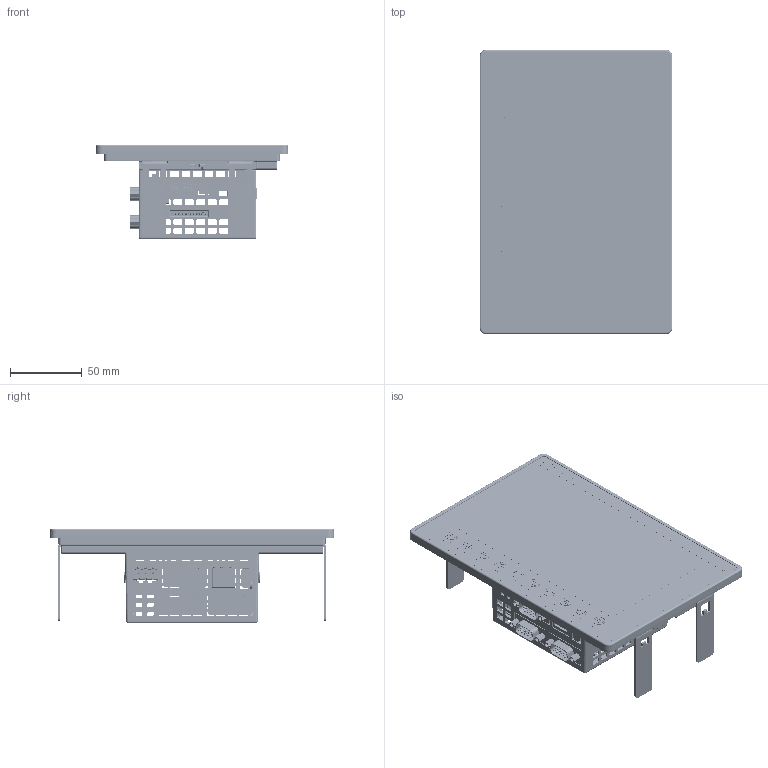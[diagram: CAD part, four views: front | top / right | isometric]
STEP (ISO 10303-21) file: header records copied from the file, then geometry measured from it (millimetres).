
FILE_DESCRIPTION((''),'2;1');
FILE_NAME('ASM_VEDO_SL_70','2019-07-19T09:00:03',('paolo.garatti'),('GEFRAN S.p.A via Carducci,24 21040 Gerenzano (VA)'),'CREO PARAMETRIC BY PTC INC, 2018300','CREO PARAMETRIC BY PTC INC, 2018300','');
FILE_SCHEMA(('AUTOMOTIVE_DESIGN { 1 0 10303 214 1 1 1 1 }'));
Products named in the file (26): BOX_VEDO_SL_70; CONN_3PM_90_P5_08_1757255; PRESA_RETE; BACK_SHELL; CONTACT01; CONTACT02; CONTACT03; CONTACT04; HOUSING; SHELL; USB-A-S-X-X-VU-XX; ROTARY_SWITCHES_SMD; 4X2_MMT104-01-T-DH-P; CONN_DB9_ERNI_154189; JUMPER; 3X2_MMT103-01-T-DH-P; PCB1_PRINCIPALE; MOLEX_5035000991; PCB2_OPTIONAL; ASM_DSP_UMSH8596MD2T; LEXAN_70_VEDOSL_TASTIERA; GUARNIZIONE_70; COPERCHIO_BOX_NEW_301115; 56648_MOLLA; STAFFETTA_MONTAGGIO_70_OP; ASM_VEDO_SL_70
Assembly tree (29 placements, depth 4):
  ASM_VEDO_SL_70
    BOX_VEDO_SL_70
    PCB1_PRINCIPALE
      CONN_3PM_90_P5_08_1757255
      PRESA_RETE
      USB-A-S-X-X-VU-XX
        BACK_SHELL
        CONTACT01
        CONTACT02
        CONTACT03
        CONTACT04
        HOUSING
        SHELL
      ROTARY_SWITCHES_SMD
      4X2_MMT104-01-T-DH-P
      CONN_DB9_ERNI_154189
      JUMPER
      3X2_MMT103-01-T-DH-P
    PCB2_OPTIONAL
      CONN_DB9_ERNI_154189  x2
      MOLEX_5035000991
    ASM_DSP_UMSH8596MD2T
    LEXAN_70_VEDOSL_TASTIERA
    GUARNIZIONE_70
    COPERCHIO_BOX_NEW_301115
    56648_MOLLA  x2
    STAFFETTA_MONTAGGIO_70_OP  x2
Bounding box: 134.4 x 198 x 66.1 mm (x, y, z)
Volume: 184834.4 mm3; surface area: 234507.9 mm2
Topology: 25 solids, 25 shells, 8896 faces, 24127 edges, 15574 vertices
Faces by surface type: plane 5740, cylinder 2361, torus 457, extrusion 194, cone 69, bspline 45, sphere 30
Entity records: 351027 total; most frequent: CARTESIAN_POINT 52638, ORIENTED_EDGE 46778, DIRECTION 44170, EDGE_CURVE 23389, PRESENTATION_STYLE_ASSIGNMENT 21999, STYLED_ITEM 20743, CURVE_STYLE 20676, VECTOR 17908
